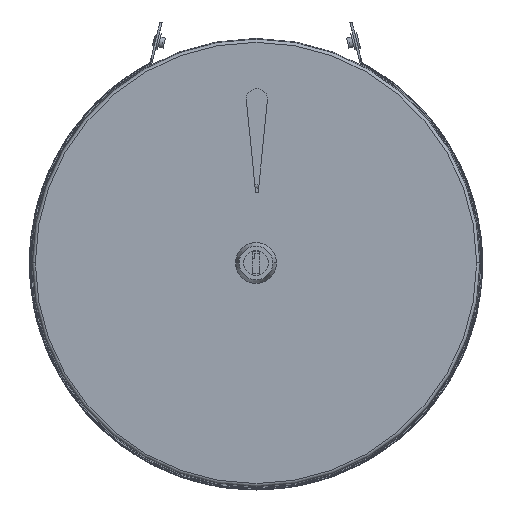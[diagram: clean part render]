
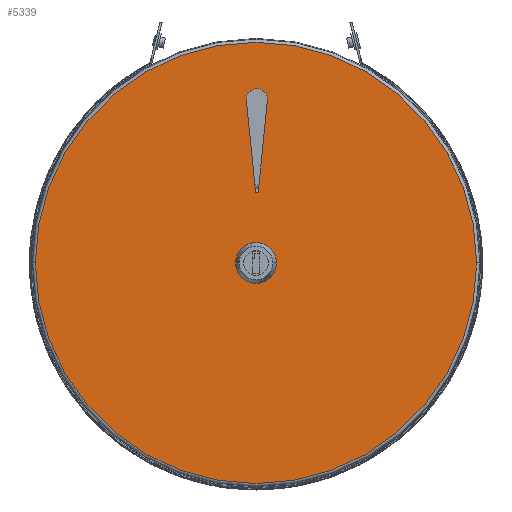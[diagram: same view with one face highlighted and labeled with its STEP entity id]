
A CAD part, top view. The second image highlights one B-rep face of the part: STEP entity #5339.
In plain terms, the highlighted planar face has unit normal (0, 0, 1).
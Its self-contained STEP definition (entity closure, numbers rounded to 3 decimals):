
#194 = VERTEX_POINT ( 'NONE', #1657 ) ;
#343 = DIRECTION ( 'NONE',  ( 0.099, 0.995, 0. ) ) ;
#604 = CARTESIAN_POINT ( 'NONE',  ( -2.335, 0.232, 128. ) ) ;
#743 = FACE_OUTER_BOUND ( 'NONE', #9339, .T. ) ;
#1123 = AXIS2_PLACEMENT_3D ( 'NONE', #9762, #5478, #16032 ) ;
#1418 = AXIS2_PLACEMENT_3D ( 'NONE', #3846, #8066, #2002 ) ;
#1623 = CIRCLE ( 'NONE', #7489, 10. ) ;
#1657 = CARTESIAN_POINT ( 'NONE',  ( 5.568, 79.673, 128. ) ) ;
#1728 = FACE_BOUND ( 'NONE', #13484, .T. ) ;
#1794 = VERTEX_POINT ( 'NONE', #19964 ) ;
#2002 = DIRECTION ( 'NONE',  ( -1., 0., 0. ) ) ;
#2652 = ORIENTED_EDGE ( 'NONE', *, *, #6506, .F. ) ;
#2673 = EDGE_CURVE ( 'NONE', #4446, #23367, #11385, .T. ) ;
#3276 = ORIENTED_EDGE ( 'NONE', *, *, #25270, .F. ) ;
#3477 = CARTESIAN_POINT ( 'NONE',  ( 108.073, 0., 128. ) ) ;
#3846 = CARTESIAN_POINT ( 'NONE',  ( 0.422, 80.185, 128. ) ) ;
#4071 = LINE ( 'NONE', #604, #13676 ) ;
#4104 = DIRECTION ( 'NONE',  ( 0., 0., 1. ) ) ;
#4334 = ORIENTED_EDGE ( 'NONE', *, *, #5263, .F. ) ;
#4370 = EDGE_LOOP ( 'NONE', ( #21484, #17115 ) ) ;
#4446 = VERTEX_POINT ( 'NONE', #21656 ) ;
#4905 = DIRECTION ( 'NONE',  ( -1., 0., 0. ) ) ;
#5263 = EDGE_CURVE ( 'NONE', #23367, #20729, #25762, .T. ) ;
#5325 = CARTESIAN_POINT ( 'NONE',  ( 0.443, 35.208, 128. ) ) ;
#5339 = ADVANCED_FACE ( 'NONE', ( #743, #21547, #1728 ), #20150, .F. ) ;
#5478 = DIRECTION ( 'NONE',  ( 0., 0., 1. ) ) ;
#5805 = CARTESIAN_POINT ( 'NONE',  ( -0.252, 35.138, 128. ) ) ;
#5979 = DIRECTION ( 'NONE',  ( -1., 0., 0. ) ) ;
#6506 = EDGE_CURVE ( 'NONE', #194, #7885, #8083, .T. ) ;
#6998 = AXIS2_PLACEMENT_3D ( 'NONE', #26417, #14288, #8304 ) ;
#7217 = ORIENTED_EDGE ( 'NONE', *, *, #11566, .T. ) ;
#7489 = AXIS2_PLACEMENT_3D ( 'NONE', #16918, #17095, #4905 ) ;
#7885 = VERTEX_POINT ( 'NONE', #15083 ) ;
#7906 = CARTESIAN_POINT ( 'NONE',  ( 0., 0., 128. ) ) ;
#8008 = CARTESIAN_POINT ( 'NONE',  ( 1.138, 35.138, 128. ) ) ;
#8066 = DIRECTION ( 'NONE',  ( 0., 0., 1. ) ) ;
#8083 = CIRCLE ( 'NONE', #1123, 5.172 ) ;
#8304 = DIRECTION ( 'NONE',  ( -1., 0., 0. ) ) ;
#8779 = ORIENTED_EDGE ( 'NONE', *, *, #11296, .T. ) ;
#9014 = CARTESIAN_POINT ( 'NONE',  ( -108.073, 0., 128. ) ) ;
#9063 = VERTEX_POINT ( 'NONE', #9014 ) ;
#9339 = EDGE_LOOP ( 'NONE', ( #7217, #8779 ) ) ;
#9762 = CARTESIAN_POINT ( 'NONE',  ( 0.422, 80.185, 128. ) ) ;
#9896 = EDGE_CURVE ( 'NONE', #20788, #1794, #1623, .T. ) ;
#10328 = CARTESIAN_POINT ( 'NONE',  ( -10., 0., 128. ) ) ;
#10551 = CARTESIAN_POINT ( 'NONE',  ( 3.245, 0.326, 128. ) ) ;
#11296 = EDGE_CURVE ( 'NONE', #17147, #9063, #13079, .T. ) ;
#11350 = CIRCLE ( 'NONE', #6998, 10. ) ;
#11385 = LINE ( 'NONE', #10551, #12964 ) ;
#11487 = DIRECTION ( 'NONE',  ( 0., 0., 1. ) ) ;
#11489 = CIRCLE ( 'NONE', #14318, 108.073 ) ;
#11566 = EDGE_CURVE ( 'NONE', #9063, #17147, #11489, .T. ) ;
#11936 = DIRECTION ( 'NONE',  ( 0., 0., -1. ) ) ;
#12147 = CARTESIAN_POINT ( 'NONE',  ( 0., 0., 128. ) ) ;
#12362 = ORIENTED_EDGE ( 'NONE', *, *, #2673, .F. ) ;
#12469 = EDGE_CURVE ( 'NONE', #7885, #18308, #22991, .T. ) ;
#12964 = VECTOR ( 'NONE', #24988, 1000. ) ;
#13079 = CIRCLE ( 'NONE', #18953, 108.073 ) ;
#13267 = ORIENTED_EDGE ( 'NONE', *, *, #24696, .F. ) ;
#13484 = EDGE_LOOP ( 'NONE', ( #2652, #3276, #4334, #12362, #13267, #18720 ) ) ;
#13676 = VECTOR ( 'NONE', #343, 1000. ) ;
#14288 = DIRECTION ( 'NONE',  ( 0., 0., -1. ) ) ;
#14318 = AXIS2_PLACEMENT_3D ( 'NONE', #14986, #23073, #19117 ) ;
#14966 = AXIS2_PLACEMENT_3D ( 'NONE', #5325, #11487, #17932 ) ;
#14986 = CARTESIAN_POINT ( 'NONE',  ( 0., 0., 128. ) ) ;
#15083 = CARTESIAN_POINT ( 'NONE',  ( 5.594, 80.185, 128. ) ) ;
#15287 = CIRCLE ( 'NONE', #1418, 5.172 ) ;
#15610 = EDGE_CURVE ( 'NONE', #1794, #20788, #11350, .T. ) ;
#16032 = DIRECTION ( 'NONE',  ( -1., 0., 0. ) ) ;
#16060 = DIRECTION ( 'NONE',  ( -1., 0., 0. ) ) ;
#16199 = DIRECTION ( 'NONE',  ( -1., 0., 0. ) ) ;
#16375 = CARTESIAN_POINT ( 'NONE',  ( 0.422, 80.185, 128. ) ) ;
#16918 = CARTESIAN_POINT ( 'NONE',  ( 0., 0., 128. ) ) ;
#17095 = DIRECTION ( 'NONE',  ( 0., 0., -1. ) ) ;
#17115 = ORIENTED_EDGE ( 'NONE', *, *, #9896, .T. ) ;
#17147 = VERTEX_POINT ( 'NONE', #3477 ) ;
#17932 = DIRECTION ( 'NONE',  ( -1., 0., 0. ) ) ;
#17975 = DIRECTION ( 'NONE',  ( 0., 0., 1. ) ) ;
#18308 = VERTEX_POINT ( 'NONE', #22910 ) ;
#18720 = ORIENTED_EDGE ( 'NONE', *, *, #12469, .F. ) ;
#18953 = AXIS2_PLACEMENT_3D ( 'NONE', #12147, #17975, #5979 ) ;
#19117 = DIRECTION ( 'NONE',  ( -1., 0., 0. ) ) ;
#19964 = CARTESIAN_POINT ( 'NONE',  ( 10., 0., 128. ) ) ;
#20150 = PLANE ( 'NONE',  #24617 ) ;
#20729 = VERTEX_POINT ( 'NONE', #8008 ) ;
#20788 = VERTEX_POINT ( 'NONE', #10328 ) ;
#21484 = ORIENTED_EDGE ( 'NONE', *, *, #15610, .T. ) ;
#21547 = FACE_BOUND ( 'NONE', #4370, .T. ) ;
#21656 = CARTESIAN_POINT ( 'NONE',  ( -4.724, 79.668, 128. ) ) ;
#22910 = CARTESIAN_POINT ( 'NONE',  ( -4.75, 80.185, 128. ) ) ;
#22991 = CIRCLE ( 'NONE', #23084, 5.172 ) ;
#23073 = DIRECTION ( 'NONE',  ( 0., 0., 1. ) ) ;
#23084 = AXIS2_PLACEMENT_3D ( 'NONE', #16375, #4104, #16199 ) ;
#23367 = VERTEX_POINT ( 'NONE', #5805 ) ;
#24617 = AXIS2_PLACEMENT_3D ( 'NONE', #7906, #11936, #16060 ) ;
#24696 = EDGE_CURVE ( 'NONE', #18308, #4446, #15287, .T. ) ;
#24988 = DIRECTION ( 'NONE',  ( 0.1, -0.995, 0. ) ) ;
#25270 = EDGE_CURVE ( 'NONE', #20729, #194, #4071, .T. ) ;
#25762 = CIRCLE ( 'NONE', #14966, 0.698 ) ;
#26417 = CARTESIAN_POINT ( 'NONE',  ( 0., 0., 128. ) ) ;
